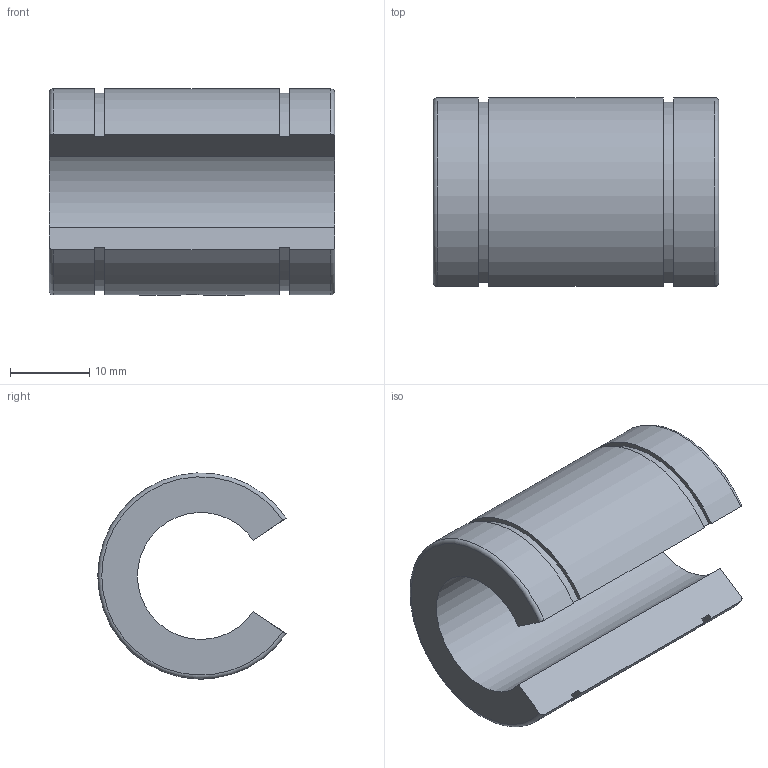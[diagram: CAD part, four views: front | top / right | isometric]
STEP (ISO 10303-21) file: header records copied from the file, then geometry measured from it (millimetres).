
FILE_DESCRIPTION(('STEP AP203'),'1');
FILE_NAME('//192.168.1.1/share/s-4 技術開発/s-4-4_CAD/s-4-4-3_見直し済み/007 修正済み/SB-OP/SB-16OP.step','2022-02-17T01:43:34',(' '),(' '),'Spatial InterOp 3D',' ',' ');
FILE_SCHEMA(('CONFIG_CONTROL_DESIGN'));
Length unit declared in the file: millimetre
Products named in the file (1): 1
Bounding box: 36 x 23.76 x 25.99 mm (x, y, z)
Volume: 9515.4 mm3; surface area: 4853.4 mm2
Topology: 1 solids, 1 shells, 18 faces, 45 edges, 30 vertices
Faces by surface type: plane 9, cylinder 7, torus 2
Full cylindrical faces by diameter (mm): 3 x1
Entity records: 646 total; most frequent: CARTESIAN_POINT 166, DIRECTION 92, ORIENTED_EDGE 88, EDGE_CURVE 44, AXIS2_PLACEMENT_3D 34, VERTEX_POINT 30, LINE 24, VECTOR 24
